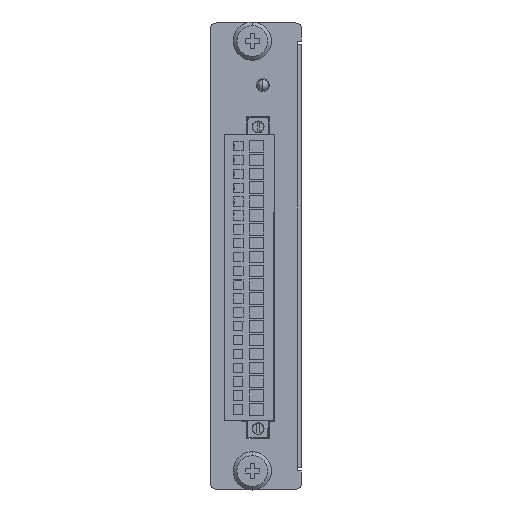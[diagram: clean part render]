
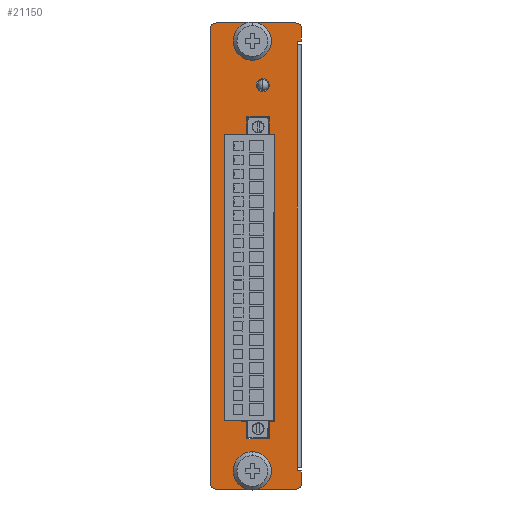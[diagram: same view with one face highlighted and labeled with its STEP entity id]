
A CAD part, top view. The second image highlights one B-rep face of the part: STEP entity #21150.
In plain terms, the highlighted planar face has unit normal (0, 0, 1).
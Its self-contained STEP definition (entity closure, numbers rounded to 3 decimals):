
#1572=DIRECTION('',(0.,-1.,0.));
#1573=VECTOR('',#1572,125.2);
#1574=CARTESIAN_POINT('',(-17.4,62.6,68.5));
#1575=LINE('',#1574,#1573);
#1576=CARTESIAN_POINT('',(-15.9,62.6,68.5));
#1577=DIRECTION('',(0.,0.,1.));
#1578=DIRECTION('',(0.,1.,0.));
#1579=AXIS2_PLACEMENT_3D('',#1576,#1577,#1578);
#1581=DIRECTION('',(-1.,0.,0.));
#1582=VECTOR('',#1581,22.);
#1583=CARTESIAN_POINT('',(6.1,64.1,68.5));
#1584=LINE('',#1583,#1582);
#1585=CARTESIAN_POINT('',(6.1,62.6,68.5));
#1586=DIRECTION('',(0.,0.,1.));
#1587=DIRECTION('',(1.,0.,0.));
#1588=AXIS2_PLACEMENT_3D('',#1585,#1586,#1587);
#1590=DIRECTION('',(0.,1.,0.));
#1591=VECTOR('',#1590,3.5);
#1592=CARTESIAN_POINT('',(7.6,59.1,68.5));
#1593=LINE('',#1592,#1591);
#1594=DIRECTION('',(1.,0.,0.));
#1595=VECTOR('',#1594,1.2);
#1596=CARTESIAN_POINT('',(6.4,59.1,68.5));
#1597=LINE('',#1596,#1595);
#1598=DIRECTION('',(0.,1.,0.));
#1599=VECTOR('',#1598,1.);
#1600=CARTESIAN_POINT('',(6.4,58.1,68.5));
#1601=LINE('',#1600,#1599);
#1602=DIRECTION('',(0.,1.,0.));
#1603=VECTOR('',#1602,1.);
#1604=CARTESIAN_POINT('',(6.4,-59.1,68.5));
#1605=LINE('',#1604,#1603);
#1606=DIRECTION('',(-1.,0.,0.));
#1607=VECTOR('',#1606,1.2);
#1608=CARTESIAN_POINT('',(7.6,-59.1,68.5));
#1609=LINE('',#1608,#1607);
#1610=DIRECTION('',(0.,1.,0.));
#1611=VECTOR('',#1610,3.5);
#1612=CARTESIAN_POINT('',(7.6,-62.6,68.5));
#1613=LINE('',#1612,#1611);
#1614=CARTESIAN_POINT('',(6.1,-62.6,68.5));
#1615=DIRECTION('',(0.,0.,1.));
#1616=DIRECTION('',(0.,-1.,0.));
#1617=AXIS2_PLACEMENT_3D('',#1614,#1615,#1616);
#1619=DIRECTION('',(1.,0.,0.));
#1620=VECTOR('',#1619,22.);
#1621=CARTESIAN_POINT('',(-15.9,-64.1,68.5));
#1622=LINE('',#1621,#1620);
#1623=CARTESIAN_POINT('',(-15.9,-62.6,68.5));
#1624=DIRECTION('',(0.,0.,1.));
#1625=DIRECTION('',(-1.,0.,0.));
#1626=AXIS2_PLACEMENT_3D('',#1623,#1624,#1625);
#1628=CARTESIAN_POINT('',(-3.,47.,68.5));
#1629=DIRECTION('',(0.,0.,-1.));
#1630=DIRECTION('',(0.,1.,0.));
#1631=AXIS2_PLACEMENT_3D('',#1628,#1629,#1630);
#1633=CARTESIAN_POINT('',(-3.,47.,68.5));
#1634=DIRECTION('',(0.,0.,-1.));
#1635=DIRECTION('',(0.,-1.,0.));
#1636=AXIS2_PLACEMENT_3D('',#1633,#1634,#1635);
#1638=DIRECTION('',(1.,0.,0.));
#1639=VECTOR('',#1638,1.53);
#1640=CARTESIAN_POINT('',(-1.28,33.45,68.5));
#1641=LINE('',#1640,#1639);
#1642=DIRECTION('',(0.,-1.,0.));
#1643=VECTOR('',#1642,4.85);
#1644=CARTESIAN_POINT('',(-1.28,38.3,68.5));
#1645=LINE('',#1644,#1643);
#1646=DIRECTION('',(1.,0.,0.));
#1647=VECTOR('',#1646,6.1);
#1648=CARTESIAN_POINT('',(-7.38,38.3,68.5));
#1649=LINE('',#1648,#1647);
#1650=DIRECTION('',(1.,0.,0.));
#1651=VECTOR('',#1650,1.47);
#1652=CARTESIAN_POINT('',(-8.85,33.45,68.5));
#1653=LINE('',#1652,#1651);
#1654=DIRECTION('',(0.,1.,0.));
#1655=VECTOR('',#1654,78.9);
#1656=CARTESIAN_POINT('',(-8.85,-45.45,68.5));
#1657=LINE('',#1656,#1655);
#1658=DIRECTION('',(-1.,0.,0.));
#1659=VECTOR('',#1658,1.47);
#1660=CARTESIAN_POINT('',(-7.38,-45.45,68.5));
#1661=LINE('',#1660,#1659);
#1662=DIRECTION('',(0.,1.,0.));
#1663=VECTOR('',#1662,4.85);
#1664=CARTESIAN_POINT('',(-7.38,-50.3,68.5));
#1665=LINE('',#1664,#1663);
#1666=DIRECTION('',(-1.,0.,0.));
#1667=VECTOR('',#1666,6.1);
#1668=CARTESIAN_POINT('',(-1.28,-50.3,68.5));
#1669=LINE('',#1668,#1667);
#1670=DIRECTION('',(0.,-1.,0.));
#1671=VECTOR('',#1670,4.85);
#1672=CARTESIAN_POINT('',(-1.28,-45.45,68.5));
#1673=LINE('',#1672,#1671);
#1674=DIRECTION('',(-1.,0.,0.));
#1675=VECTOR('',#1674,1.53);
#1676=CARTESIAN_POINT('',(0.25,-45.45,68.5));
#1677=LINE('',#1676,#1675);
#1678=DIRECTION('',(0.,-1.,0.));
#1679=VECTOR('',#1678,78.9);
#1680=CARTESIAN_POINT('',(0.25,33.45,68.5));
#1681=LINE('',#1680,#1679);
#1682=CARTESIAN_POINT('',(-5.9,59.1,68.5));
#1683=DIRECTION('',(0.,0.,1.));
#1684=DIRECTION('',(-1.,0.,0.));
#1685=AXIS2_PLACEMENT_3D('',#1682,#1683,#1684);
#1687=CARTESIAN_POINT('',(-5.9,59.1,68.5));
#1688=DIRECTION('',(0.,0.,1.));
#1689=DIRECTION('',(1.,0.,0.));
#1690=AXIS2_PLACEMENT_3D('',#1687,#1688,#1689);
#1692=CARTESIAN_POINT('',(-5.9,-59.1,68.5));
#1693=DIRECTION('',(0.,0.,1.));
#1694=DIRECTION('',(-1.,0.,0.));
#1695=AXIS2_PLACEMENT_3D('',#1692,#1693,#1694);
#1697=CARTESIAN_POINT('',(-5.9,-59.1,68.5));
#1698=DIRECTION('',(0.,0.,1.));
#1699=DIRECTION('',(1.,0.,0.));
#1700=AXIS2_PLACEMENT_3D('',#1697,#1698,#1699);
#1995=DIRECTION('',(0.,-1.,0.));
#1996=VECTOR('',#1995,116.2);
#1997=CARTESIAN_POINT('',(6.4,58.1,68.5));
#1998=LINE('',#1997,#1996);
#2251=DIRECTION('',(0.,-1.,0.));
#2252=VECTOR('',#2251,4.85);
#2253=CARTESIAN_POINT('',(-7.38,38.3,68.5));
#2254=LINE('',#2253,#2252);
#18316=CARTESIAN_POINT('',(-7.38,33.45,68.5));
#18318=VERTEX_POINT('',#18316);
#18320=CARTESIAN_POINT('',(-17.4,62.6,68.5));
#18321=CARTESIAN_POINT('',(-17.4,-62.6,68.5));
#18322=VERTEX_POINT('',#18320);
#18323=VERTEX_POINT('',#18321);
#18326=CARTESIAN_POINT('',(-7.38,38.3,68.5));
#18327=VERTEX_POINT('',#18326);
#18328=CARTESIAN_POINT('',(-15.9,64.1,68.5));
#18330=VERTEX_POINT('',#18328);
#18332=CARTESIAN_POINT('',(-15.9,-64.1,68.5));
#18333=VERTEX_POINT('',#18332);
#18334=CARTESIAN_POINT('',(-8.85,33.45,68.5));
#18335=VERTEX_POINT('',#18334);
#18342=CARTESIAN_POINT('',(6.1,-64.1,68.5));
#18343=VERTEX_POINT('',#18342);
#18344=CARTESIAN_POINT('',(6.1,64.1,68.5));
#18345=VERTEX_POINT('',#18344);
#18348=CARTESIAN_POINT('',(-1.28,38.3,68.5));
#18349=VERTEX_POINT('',#18348);
#18352=CARTESIAN_POINT('',(-3.,48.75,68.5));
#18353=CARTESIAN_POINT('',(-3.,45.25,68.5));
#18354=VERTEX_POINT('',#18352);
#18355=VERTEX_POINT('',#18353);
#18356=CARTESIAN_POINT('',(7.6,-62.6,68.5));
#18357=VERTEX_POINT('',#18356);
#18360=CARTESIAN_POINT('',(7.6,62.6,68.5));
#18361=VERTEX_POINT('',#18360);
#18366=CARTESIAN_POINT('',(-1.28,33.45,68.5));
#18367=VERTEX_POINT('',#18366);
#18368=CARTESIAN_POINT('',(-8.85,-45.45,68.5));
#18369=VERTEX_POINT('',#18368);
#18370=CARTESIAN_POINT('',(0.25,33.45,68.5));
#18371=VERTEX_POINT('',#18370);
#18378=CARTESIAN_POINT('',(7.6,-59.1,68.5));
#18379=VERTEX_POINT('',#18378);
#18380=CARTESIAN_POINT('',(7.6,59.1,68.5));
#18381=VERTEX_POINT('',#18380);
#18386=CARTESIAN_POINT('',(-7.38,-45.45,68.5));
#18387=VERTEX_POINT('',#18386);
#18388=CARTESIAN_POINT('',(0.25,-45.45,68.5));
#18389=VERTEX_POINT('',#18388);
#18404=CARTESIAN_POINT('',(6.4,-59.1,68.5));
#18405=VERTEX_POINT('',#18404);
#18408=CARTESIAN_POINT('',(6.4,59.1,68.5));
#18409=VERTEX_POINT('',#18408);
#18414=CARTESIAN_POINT('',(-7.38,-50.3,68.5));
#18415=VERTEX_POINT('',#18414);
#18416=CARTESIAN_POINT('',(-1.28,-45.45,68.5));
#18417=VERTEX_POINT('',#18416);
#18424=CARTESIAN_POINT('',(6.4,-58.1,68.5));
#18425=VERTEX_POINT('',#18424);
#18426=CARTESIAN_POINT('',(6.4,58.1,68.5));
#18427=VERTEX_POINT('',#18426);
#18432=CARTESIAN_POINT('',(-1.28,-50.3,68.5));
#18433=VERTEX_POINT('',#18432);
#19672=CARTESIAN_POINT('',(-9.05,59.1,68.5));
#19673=CARTESIAN_POINT('',(-2.75,59.1,68.5));
#19674=VERTEX_POINT('',#19672);
#19675=VERTEX_POINT('',#19673);
#19680=CARTESIAN_POINT('',(-9.05,-59.1,68.5));
#19681=CARTESIAN_POINT('',(-2.75,-59.1,68.5));
#19682=VERTEX_POINT('',#19680);
#19683=VERTEX_POINT('',#19681);
#21072=CARTESIAN_POINT('',(0.,0.,68.5));
#21073=DIRECTION('',(0.,0.,1.));
#21074=DIRECTION('',(1.,0.,0.));
#21075=AXIS2_PLACEMENT_3D('',#21072,#21073,#21074);
#21076=PLANE('',#21075);
#21078=ORIENTED_EDGE('',*,*,#21077,.F.);
#21080=ORIENTED_EDGE('',*,*,#21079,.F.);
#21082=ORIENTED_EDGE('',*,*,#21081,.F.);
#21084=ORIENTED_EDGE('',*,*,#21083,.F.);
#21086=ORIENTED_EDGE('',*,*,#21085,.F.);
#21088=ORIENTED_EDGE('',*,*,#21087,.F.);
#21089=ORIENTED_EDGE('',*,*,#21056,.F.);
#21091=ORIENTED_EDGE('',*,*,#21090,.T.);
#21093=ORIENTED_EDGE('',*,*,#21092,.F.);
#21095=ORIENTED_EDGE('',*,*,#21094,.F.);
#21097=ORIENTED_EDGE('',*,*,#21096,.F.);
#21099=ORIENTED_EDGE('',*,*,#21098,.F.);
#21101=ORIENTED_EDGE('',*,*,#21100,.F.);
#21103=ORIENTED_EDGE('',*,*,#21102,.F.);
#21104=EDGE_LOOP('',(#21078,#21080,#21082,#21084,#21086,#21088,#21089,#21091,
#21093,#21095,#21097,#21099,#21101,#21103));
#21105=FACE_OUTER_BOUND('',#21104,.F.);
#21107=ORIENTED_EDGE('',*,*,#21106,.F.);
#21109=ORIENTED_EDGE('',*,*,#21108,.F.);
#21110=EDGE_LOOP('',(#21107,#21109));
#21111=FACE_BOUND('',#21110,.F.);
#21113=ORIENTED_EDGE('',*,*,#21112,.F.);
#21115=ORIENTED_EDGE('',*,*,#21114,.F.);
#21117=ORIENTED_EDGE('',*,*,#21116,.F.);
#21119=ORIENTED_EDGE('',*,*,#21118,.T.);
#21121=ORIENTED_EDGE('',*,*,#21120,.F.);
#21123=ORIENTED_EDGE('',*,*,#21122,.F.);
#21125=ORIENTED_EDGE('',*,*,#21124,.F.);
#21127=ORIENTED_EDGE('',*,*,#21126,.F.);
#21129=ORIENTED_EDGE('',*,*,#21128,.F.);
#21131=ORIENTED_EDGE('',*,*,#21130,.F.);
#21133=ORIENTED_EDGE('',*,*,#21132,.F.);
#21135=ORIENTED_EDGE('',*,*,#21134,.F.);
#21136=EDGE_LOOP('',(#21113,#21115,#21117,#21119,#21121,#21123,#21125,#21127,
#21129,#21131,#21133,#21135));
#21137=FACE_BOUND('',#21136,.F.);
#21139=ORIENTED_EDGE('',*,*,#21138,.T.);
#21141=ORIENTED_EDGE('',*,*,#21140,.T.);
#21142=EDGE_LOOP('',(#21139,#21141));
#21143=FACE_BOUND('',#21142,.F.);
#21145=ORIENTED_EDGE('',*,*,#21144,.T.);
#21147=ORIENTED_EDGE('',*,*,#21146,.T.);
#21148=EDGE_LOOP('',(#21145,#21147));
#21149=FACE_BOUND('',#21148,.F.);
#1580=CIRCLE('',#1579,1.5);
#1589=CIRCLE('',#1588,1.5);
#1618=CIRCLE('',#1617,1.5);
#1627=CIRCLE('',#1626,1.5);
#1632=CIRCLE('',#1631,1.75);
#1637=CIRCLE('',#1636,1.75);
#1686=CIRCLE('',#1685,3.15);
#1691=CIRCLE('',#1690,3.15);
#1696=CIRCLE('',#1695,3.15);
#1701=CIRCLE('',#1700,3.15);
#21056=EDGE_CURVE('',#18427,#18409,#1601,.T.);
#21077=EDGE_CURVE('',#18322,#18323,#1575,.T.);
#21079=EDGE_CURVE('',#18330,#18322,#1580,.T.);
#21081=EDGE_CURVE('',#18345,#18330,#1584,.T.);
#21083=EDGE_CURVE('',#18361,#18345,#1589,.T.);
#21085=EDGE_CURVE('',#18381,#18361,#1593,.T.);
#21087=EDGE_CURVE('',#18409,#18381,#1597,.T.);
#21090=EDGE_CURVE('',#18427,#18425,#1998,.T.);
#21092=EDGE_CURVE('',#18405,#18425,#1605,.T.);
#21094=EDGE_CURVE('',#18379,#18405,#1609,.T.);
#21096=EDGE_CURVE('',#18357,#18379,#1613,.T.);
#21098=EDGE_CURVE('',#18343,#18357,#1618,.T.);
#21100=EDGE_CURVE('',#18333,#18343,#1622,.T.);
#21102=EDGE_CURVE('',#18323,#18333,#1627,.T.);
#21106=EDGE_CURVE('',#18354,#18355,#1632,.T.);
#21108=EDGE_CURVE('',#18355,#18354,#1637,.T.);
#21112=EDGE_CURVE('',#18367,#18371,#1641,.T.);
#21114=EDGE_CURVE('',#18349,#18367,#1645,.T.);
#21116=EDGE_CURVE('',#18327,#18349,#1649,.T.);
#21118=EDGE_CURVE('',#18327,#18318,#2254,.T.);
#21120=EDGE_CURVE('',#18335,#18318,#1653,.T.);
#21122=EDGE_CURVE('',#18369,#18335,#1657,.T.);
#21124=EDGE_CURVE('',#18387,#18369,#1661,.T.);
#21126=EDGE_CURVE('',#18415,#18387,#1665,.T.);
#21128=EDGE_CURVE('',#18433,#18415,#1669,.T.);
#21130=EDGE_CURVE('',#18417,#18433,#1673,.T.);
#21132=EDGE_CURVE('',#18389,#18417,#1677,.T.);
#21134=EDGE_CURVE('',#18371,#18389,#1681,.T.);
#21138=EDGE_CURVE('',#19674,#19675,#1686,.T.);
#21140=EDGE_CURVE('',#19675,#19674,#1691,.T.);
#21144=EDGE_CURVE('',#19682,#19683,#1696,.T.);
#21146=EDGE_CURVE('',#19683,#19682,#1701,.T.);
#21150=ADVANCED_FACE('',(#21105,#21111,#21137,#21143,#21149),#21076,.T.);
